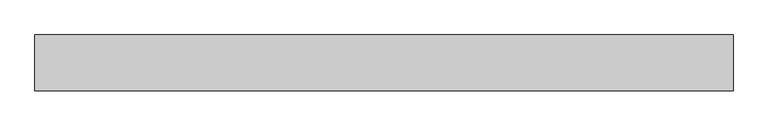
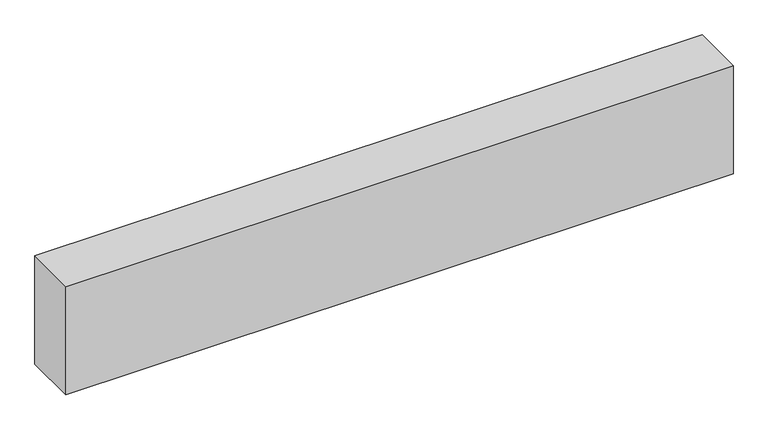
"""IFC4 building model written with IfcOpenShell, lengths in millimetres: proxy geometry."""

from ifc_helpers import new_model, si_unit, frame, origin, place, context, project, spatial, polyline, outline, extrude, source, transform, mapped, element, save


def structural_framing_5b1cebb9(model_context):
    return source(origin(), model_context, "Body", "SweptSolid", [
        extrude(outline(polyline([(-875.0, -70.0), (-875.0, 70.0), (875.0, 70.0), (875.0, -70.0), (-875.0, -70.0)])), frame((0.0, 0.0, -300.0), z_axis=(0.0, 0.0, 1.0), x_axis=(1.0, 0.0, 0.0)), (0.0, 0.0, 1.0), 300.0),
    ])


if __name__ == "__main__":
    model = new_model("IFC4")
    model_context = context("Model", 3, world=origin())
    ifc_project = project(units=[si_unit("LENGTHUNIT", "METRE", prefix="MILLI")], contexts=[model_context])
    site = spatial("IfcSite", under=ifc_project)
    building = spatial("IfcBuilding", under=site)
    placement = place(None, origin())
    structural_framing_shape = structural_framing_5b1cebb9(model_context)
    element("IfcBuildingElementProxy", 1, Name="Structural Framing", at=placement, inside=building, context=model_context, shape_type="MappedRepresentation", body=[
        mapped(structural_framing_shape, transform((0.0, 0.0, 0.0), x_axis=(1.0, 0.0, 0.0), y_axis=(0.0, 1.0, 0.0), z_axis=(0.0, 0.0, 1.0))),
    ])
    save(model, "model.ifc")
